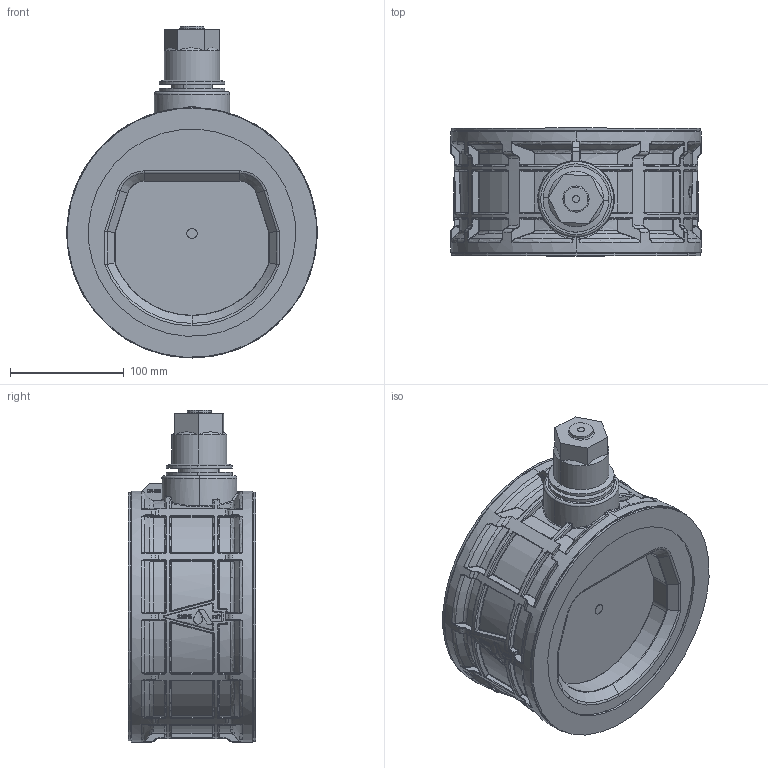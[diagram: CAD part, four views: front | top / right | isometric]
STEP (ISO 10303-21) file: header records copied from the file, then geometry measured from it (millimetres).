
FILE_DESCRIPTION (( 'STEP AP203' ), '1' );
FILE_NAME ('Assembly_NR-010_6.STEP', '2020-04-30T08:10:10', ( '' ), ( '' ), 'SwSTEP 2.0', 'SolidWorks 2016', '' );
FILE_SCHEMA (( 'CONFIG_CONTROL_DESIGN' ));
Length unit declared in the file: millimetre
Products named in the file (2): Assembly_NR-010_6
Bounding box: 220 x 112 x 291.46 mm (x, y, z)
Surface area: 307798 mm2 (no closed solid volume)
Topology: 0 solids, 25 shells, 1766 faces, 5774 edges, 3711 vertices
Faces by surface type: bspline 573, cylinder 452, plane 309, torus 286, cone 116, sphere 30
Entity records: 86557 total; most frequent: CARTESIAN_POINT 42641, ORIENTED_EDGE 8994, DIRECTION 8192, EDGE_CURVE 5700, VERTEX_POINT 3711, AXIS2_PLACEMENT_3D 3271, CIRCLE 2076, EDGE_LOOP 1857
